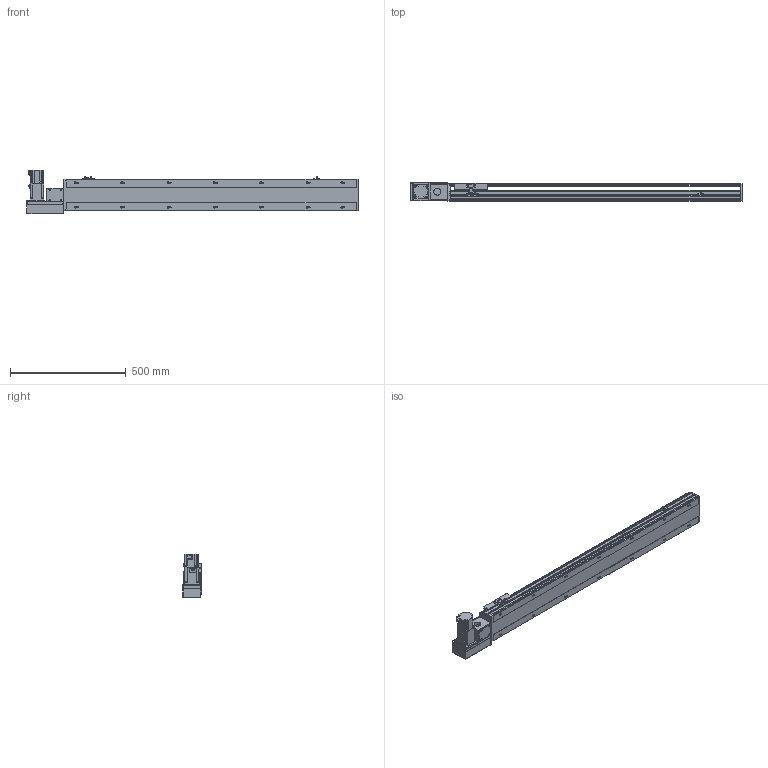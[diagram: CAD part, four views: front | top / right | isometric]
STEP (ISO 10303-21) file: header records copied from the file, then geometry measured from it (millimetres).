
FILE_DESCRIPTION(/* description */ ('STEP AP214'),/* implementation_level */ '2;1');
FILE_NAME(/* name */ 'PBS140-P40-S1000-L-T40-C1-N(0)',/* time_stamp */ '2022-06-06T03:01:32+02:00',/* author */ ('License CC BY-ND 4.0'),/* organization */ ('CADENAS'),/* preprocessor_version */ 'ST-DEVELOPER v18.102',/* originating_system */ 'PARTsolutions',/* authorisation */ ' ');
FILE_SCHEMA (('AUTOMOTIVE_DESIGN {1 0 10303 214 3 1 1}'));
Length unit declared in the file: millimetre
Products named in the file (7): PBS140-P40-S1000-L-T40-C1-N(0); PBS140_sensor; PBS140_plant; PBS140_sliser; T40-p1; PBS140T-L_motors; PBS140-S1000()_body
Assembly tree (8 placements, depth 2):
  PBS140-P40-S1000-L-T40-C1-N(0)
    PBS140_sensor  x3
    PBS140_plant
    PBS140_sliser
    T40-p1
    PBS140T-L_motors
    PBS140-S1000()_body
Bounding box: 1433 x 80.5 x 189.7 mm (x, y, z)
Volume: 6513374.8 mm3; surface area: 1139508.8 mm2
Topology: 8 solids, 8 shells, 1059 faces, 2796 edges, 1827 vertices
Faces by surface type: plane 686, cylinder 323, cone 40, sphere 8, torus 2
Full cylindrical faces by diameter (mm): 3.242 x4, 4 x2, 4.134 x4, 4.4 x8, 4.5 x2, 4.8 x4, 4.917 x22, 5.5 x7, 6 x2, 7 x16, 7.5 x8, 8 x12, 8.5 x4, 10.5 x14, 14 x1, 30 x2, 50 x2
Entity records: 30187 total; most frequent: CARTESIAN_POINT 5553, DIRECTION 5127, ORIENTED_EDGE 4852, EDGE_CURVE 2426, AXIS2_PLACEMENT_3D 1777, VERTEX_POINT 1677, LINE 1573, VECTOR 1573
